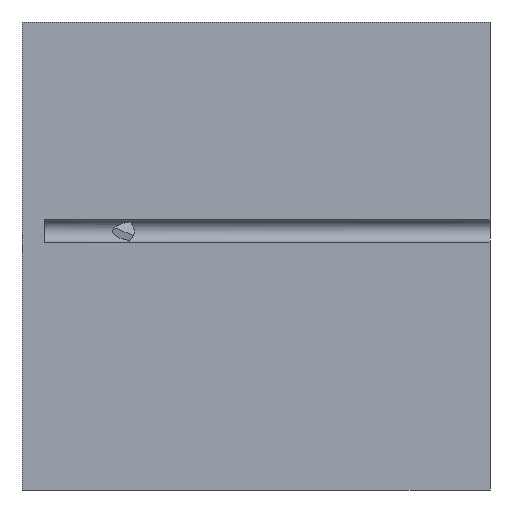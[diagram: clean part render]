
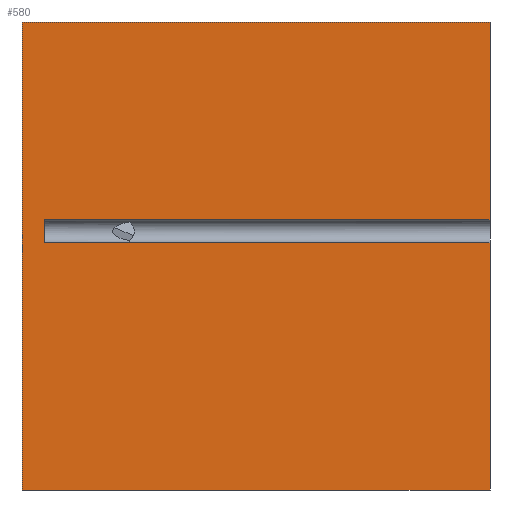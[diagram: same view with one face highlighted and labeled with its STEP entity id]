
A CAD part, front view. The second image highlights one B-rep face of the part: STEP entity #580.
In plain terms, the highlighted planar face has unit normal (0, -1, 0).
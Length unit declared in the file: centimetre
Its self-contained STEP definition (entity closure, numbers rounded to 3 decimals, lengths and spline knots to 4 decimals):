
#1 = LINE ( 'NONE', #1802, #1402 ) ;
#32 = DIRECTION ( 'NONE',  ( 0., 0., -1. ) ) ;
#44 = CARTESIAN_POINT ( 'NONE',  ( 1000., 0., 1000. ) ) ;
#53 = DIRECTION ( 'NONE',  ( 1., 0., 0. ) ) ;
#105 = CARTESIAN_POINT ( 'NONE',  ( 1000., 0., 1000. ) ) ;
#145 = CARTESIAN_POINT ( 'NONE',  ( 0., 0., 1000. ) ) ;
#168 = ORIENTED_EDGE ( 'NONE', *, *, #1942, .T. ) ;
#187 = DIRECTION ( 'NONE',  ( 0., 0., 1. ) ) ;
#198 = CARTESIAN_POINT ( 'NONE',  ( 0., 0., 0. ) ) ;
#239 = DIRECTION ( 'NONE',  ( 0., 0., -1. ) ) ;
#308 = VECTOR ( 'NONE', #239, 100. ) ;
#342 = LINE ( 'NONE', #772, #925 ) ;
#354 = CARTESIAN_POINT ( 'NONE',  ( 1000., 0., 528.0782 ) ) ;
#360 = ORIENTED_EDGE ( 'NONE', *, *, #622, .T. ) ;
#380 = VERTEX_POINT ( 'NONE', #1832 ) ;
#384 = CARTESIAN_POINT ( 'NONE',  ( 49.1169, 0., 1000. ) ) ;
#386 = VECTOR ( 'NONE', #1612, 100. ) ;
#387 = CARTESIAN_POINT ( 'NONE',  ( 0., 0., 1000. ) ) ;
#420 = DIRECTION ( 'NONE',  ( 1., 0., 0. ) ) ;
#440 = VECTOR ( 'NONE', #32, 100. ) ;
#476 = CARTESIAN_POINT ( 'NONE',  ( 1000., 0., 1000. ) ) ;
#478 = VERTEX_POINT ( 'NONE', #354 ) ;
#487 = VERTEX_POINT ( 'NONE', #1740 ) ;
#516 = VERTEX_POINT ( 'NONE', #198 ) ;
#520 = EDGE_CURVE ( 'NONE', #478, #1800, #1731, .T. ) ;
#533 = PLANE ( 'NONE',  #630 ) ;
#568 = LINE ( 'NONE', #1951, #1447 ) ;
#573 = CARTESIAN_POINT ( 'NONE',  ( 1000., 0., 0. ) ) ;
#580 = ADVANCED_FACE ( 'NONE', ( #1297 ), #533, .F. ) ;
#597 = VERTEX_POINT ( 'NONE', #105 ) ;
#622 = EDGE_CURVE ( 'NONE', #739, #516, #709, .T. ) ;
#630 = AXIS2_PLACEMENT_3D ( 'NONE', #387, #1552, #187 ) ;
#709 = LINE ( 'NONE', #1614, #308 ) ;
#739 = VERTEX_POINT ( 'NONE', #1106 ) ;
#772 = CARTESIAN_POINT ( 'NONE',  ( 0., 0., 0. ) ) ;
#863 = ORIENTED_EDGE ( 'NONE', *, *, #1801, .T. ) ;
#925 = VECTOR ( 'NONE', #53, 100. ) ;
#964 = CARTESIAN_POINT ( 'NONE',  ( 49.1169, 0., 577.412 ) ) ;
#967 = DIRECTION ( 'NONE',  ( 0., 0., -1. ) ) ;
#1009 = VECTOR ( 'NONE', #1346, 100. ) ;
#1028 = DIRECTION ( 'NONE',  ( 1., 0., 0. ) ) ;
#1056 = ORIENTED_EDGE ( 'NONE', *, *, #1496, .F. ) ;
#1064 = ORIENTED_EDGE ( 'NONE', *, *, #1296, .F. ) ;
#1106 = CARTESIAN_POINT ( 'NONE',  ( 0., 0., 1000. ) ) ;
#1114 = EDGE_CURVE ( 'NONE', #739, #597, #1189, .T. ) ;
#1140 = LINE ( 'NONE', #384, #386 ) ;
#1189 = LINE ( 'NONE', #145, #1009 ) ;
#1203 = VECTOR ( 'NONE', #967, 100. ) ;
#1271 = ORIENTED_EDGE ( 'NONE', *, *, #520, .F. ) ;
#1275 = EDGE_CURVE ( 'NONE', #597, #487, #1728, .T. ) ;
#1281 = VERTEX_POINT ( 'NONE', #964 ) ;
#1296 = EDGE_CURVE ( 'NONE', #1281, #380, #1140, .T. ) ;
#1297 = FACE_OUTER_BOUND ( 'NONE', #1700, .T. ) ;
#1346 = DIRECTION ( 'NONE',  ( 1., 0., 0. ) ) ;
#1402 = VECTOR ( 'NONE', #420, 100. ) ;
#1447 = VECTOR ( 'NONE', #1028, 100. ) ;
#1496 = EDGE_CURVE ( 'NONE', #380, #478, #568, .T. ) ;
#1552 = DIRECTION ( 'NONE',  ( 0., 1., 0. ) ) ;
#1612 = DIRECTION ( 'NONE',  ( 0., 0., -1. ) ) ;
#1614 = CARTESIAN_POINT ( 'NONE',  ( 0., 0., 1000. ) ) ;
#1700 = EDGE_LOOP ( 'NONE', ( #1064, #863, #1930, #1859, #360, #168, #1271, #1056 ) ) ;
#1728 = LINE ( 'NONE', #476, #440 ) ;
#1731 = LINE ( 'NONE', #44, #1203 ) ;
#1740 = CARTESIAN_POINT ( 'NONE',  ( 1000., 0., 577.412 ) ) ;
#1800 = VERTEX_POINT ( 'NONE', #573 ) ;
#1801 = EDGE_CURVE ( 'NONE', #1281, #487, #1, .T. ) ;
#1802 = CARTESIAN_POINT ( 'NONE',  ( 49.1169, 0., 577.412 ) ) ;
#1832 = CARTESIAN_POINT ( 'NONE',  ( 49.1169, 0., 528.0782 ) ) ;
#1859 = ORIENTED_EDGE ( 'NONE', *, *, #1114, .F. ) ;
#1930 = ORIENTED_EDGE ( 'NONE', *, *, #1275, .F. ) ;
#1942 = EDGE_CURVE ( 'NONE', #516, #1800, #342, .T. ) ;
#1951 = CARTESIAN_POINT ( 'NONE',  ( 49.1169, 0., 528.0782 ) ) ;
